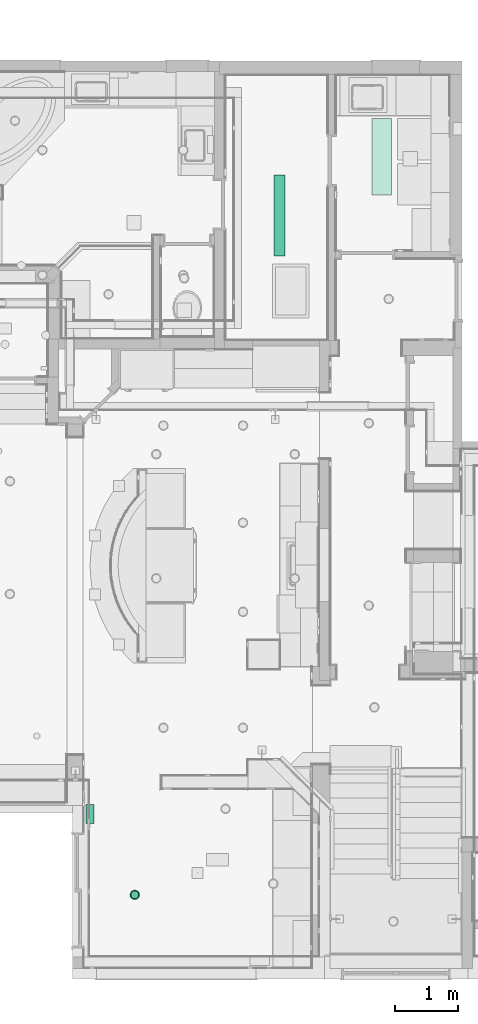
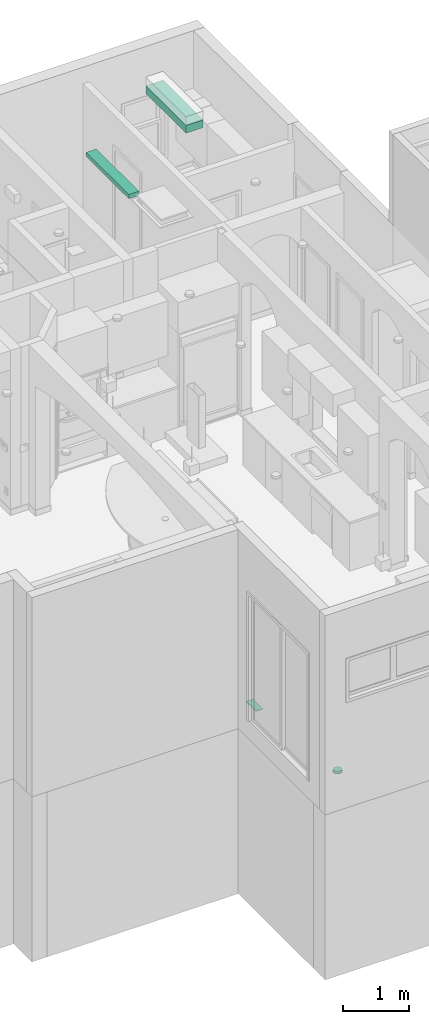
# One storey, part 35 of 60: 4 flow terminals.
"""IFC2X3 building model written with IfcOpenShell, lengths in feet."""

from ifc_helpers import new_model, entity, si_unit, converted_unit, direction, frame, frame_2d, origin, origin_2d_with_axis, place, context, subcontext, project, spatial, polyline, rectangle, outline, extrude, faceted_brep, source, transform, mapped, material, material_list, type_object, type_shapes, element, save


model = new_model("IFC2X3")

# Units and contexts
model_context = context("Model", 3, precision=0.0001, world=origin(), true_north=direction((6.123031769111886e-17, 1.0)))
plan_context = context("Plan", 3, precision=0.0001, world=origin(), true_north=direction((6.123031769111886e-17, 1.0)))
body_context = subcontext(model_context, "Body", "Model", "MODEL_VIEW")
ifc_project = project(units=[converted_unit("LENGTHUNIT", "FOOT", entity("IfcLengthMeasure", 0.3048), si_unit("LENGTHUNIT", "METRE"), dimensions=[1, 0, 0, 0, 0, 0, 0]), converted_unit("AREAUNIT", "SQUARE FOOT", entity("IfcAreaMeasure", 0.09290304), si_unit("AREAUNIT", "SQUARE_METRE"), dimensions=[2, 0, 0, 0, 0, 0, 0]), converted_unit("PLANEANGLEUNIT", "DEGREE", entity("IfcPlaneAngleMeasure", 0.017453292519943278), si_unit("PLANEANGLEUNIT", "RADIAN"), dimensions=[0, 0, 0, 0, 0, 0, 0])], contexts=[model_context, plan_context])

# Site, building, storey
site_placement = place(None, origin())
site = spatial("IfcSite", under=ifc_project, at=site_placement, Name="Default", CompositionType="ELEMENT")
building_placement = place(site_placement, origin())
building = spatial("IfcBuilding", under=site, at=building_placement, CompositionType="ELEMENT")
storey_placement = place(building_placement, origin())
storey = spatial("IfcBuildingStorey", under=building, at=storey_placement, Name="First floor", CompositionType="ELEMENT", Elevation=0.0)

# Flow terminals
ifc_material_1 = material(Name="Default New Material")
ifc_material_2 = material(Name="Glass, White, High Luminance")
ifc_material_list_1 = material_list([ifc_material_1, ifc_material_2])
light_fixture_type_1 = type_object("IfcLightFixtureType", Name="C_Spotlight Recessed:Light 2", PredefinedType="NOTDEFINED", material=ifc_material_list_1)
shared_shape_1 = source(origin(), body_context, "Body", "Brep", [
    faceted_brep([(-0.12499999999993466, 0.21650635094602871, 0.020833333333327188), (-0.17677669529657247, 0.17677669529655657, 0.020833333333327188), (-0.08333333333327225, 0.14433756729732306, 0.020833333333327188), (-0.04313650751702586, 0.1609876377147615, 0.020833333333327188), (-0.0647047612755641, 0.24148145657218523, 0.020833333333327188), (-0.11785113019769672, 0.11785113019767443, 0.020833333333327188), (-0.21650635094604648, 0.12499999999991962, 0.020833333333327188), (-0.1443375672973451, 0.08333333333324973, 0.020833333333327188), (-0.16098763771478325, 0.04313650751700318, 0.020833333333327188), (-0.2414814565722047, 0.06470476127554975, 0.020833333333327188), (-0.166666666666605, 0.0, 0.020833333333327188), (-0.24999999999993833, 0.0, 0.020833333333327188), (-0.16098763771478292, -0.043136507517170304, 0.020833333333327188), (-0.24148145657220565, -0.06470476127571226, 0.020833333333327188), (-0.14433756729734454, -0.08333333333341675, 0.020833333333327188), (-0.2165063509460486, -0.12500000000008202, 0.020833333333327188), (-0.117851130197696, -0.11785113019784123, 0.020833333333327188), (-0.1767766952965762, -0.17677669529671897, 0.020833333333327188), (-0.08333333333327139, -0.14433756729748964, 0.020833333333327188), (-0.12499999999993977, -0.21650635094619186, 0.020833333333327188), (-0.04313650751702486, -0.16098763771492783, 0.020833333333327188), (-0.06470476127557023, -0.24148145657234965, 0.020833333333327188), (0.0, -0.1666666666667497, 0.020833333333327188), (0.0, -0.25000000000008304, 0.020833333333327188), (0.04313650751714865, -0.1609876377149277, 0.020833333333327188), (0.06470476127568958, -0.24148145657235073, 0.020833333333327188), (0.08333333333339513, -0.1443375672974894, 0.020833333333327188), (0.12500000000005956, -0.21650635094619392, 0.020833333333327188), (0.11785113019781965, -0.11785113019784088, 0.020833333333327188), (0.1767766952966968, -0.1767766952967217, 0.020833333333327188), (0.14433756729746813, -0.0833333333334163, 0.020833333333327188), (0.21650635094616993, -0.12500000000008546, 0.020833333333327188), (0.24148145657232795, -0.06470476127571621, 0.020833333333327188), (0.16098763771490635, -0.0431365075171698, 0.020833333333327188), (0.2500000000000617, 0.0, 0.020833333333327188), (0.1666666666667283, 0.0, 0.020833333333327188), (0.24148145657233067, 0.06470476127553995, 0.020833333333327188), (0.16098763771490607, 0.04313650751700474, 0.020833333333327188), (0.21650635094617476, 0.12499999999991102, 0.020833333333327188), (0.14433756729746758, 0.08333333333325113, 0.020833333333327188), (0.17677669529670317, 0.17677669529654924, 0.020833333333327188), (0.1178511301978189, 0.11785113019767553, 0.020833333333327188), (0.1250000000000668, 0.21650635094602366, 0.020833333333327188), (0.08333333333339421, 0.14433756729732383, 0.020833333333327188), (0.06470476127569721, 0.2414814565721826, 0.020833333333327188), (0.04313650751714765, 0.16098763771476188, 0.020833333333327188), (0.0, 0.24999999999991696, 0.020833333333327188), (0.0, 0.1666666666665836, 0.020833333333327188), (-0.12499999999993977, -0.21650635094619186, 0.0), (-0.1767766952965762, -0.17677669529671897, 0.0), (-0.08333333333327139, -0.14433756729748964, 0.0), (-0.04313650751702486, -0.16098763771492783, 0.0), (-0.06470476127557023, -0.24148145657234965, 0.0), (-0.117851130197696, -0.11785113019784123, 0.0), (-0.2165063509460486, -0.12500000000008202, 0.0), (-0.14433756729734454, -0.08333333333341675, 0.0), (-0.16098763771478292, -0.043136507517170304, 0.0), (-0.24148145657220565, -0.06470476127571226, 0.0), (-0.166666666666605, 0.0, 0.0), (-0.24999999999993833, 0.0, 0.0), (-0.16098763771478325, 0.04313650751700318, 0.0), (-0.2414814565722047, 0.06470476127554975, 0.0), (-0.1443375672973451, 0.08333333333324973, 0.0), (-0.21650635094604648, 0.12499999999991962, 0.0), (-0.11785113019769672, 0.11785113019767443, 0.0), (-0.17677669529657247, 0.17677669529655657, 0.0), (-0.08333333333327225, 0.14433756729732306, 0.0), (-0.12499999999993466, 0.21650635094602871, 0.0), (-0.04313650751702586, 0.1609876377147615, 0.0), (-0.0647047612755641, 0.24148145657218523, 0.0), (0.0, 0.1666666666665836, 0.0), (0.0, 0.24999999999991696, 0.0), (0.04313650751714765, 0.16098763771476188, 0.0), (0.06470476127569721, 0.2414814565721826, 0.0), (0.08333333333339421, 0.14433756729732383, 0.0), (0.1250000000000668, 0.21650635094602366, 0.0), (0.1178511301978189, 0.11785113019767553, 0.0), (0.17677669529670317, 0.17677669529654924, 0.0), (0.14433756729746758, 0.08333333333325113, 0.0), (0.21650635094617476, 0.12499999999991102, 0.0), (0.24148145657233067, 0.06470476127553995, 0.0), (0.16098763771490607, 0.04313650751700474, 0.0), (0.2500000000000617, 0.0, 0.0), (0.1666666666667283, 0.0, 0.0), (0.24148145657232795, -0.06470476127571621, 0.0), (0.16098763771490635, -0.0431365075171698, 0.0), (0.21650635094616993, -0.12500000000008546, 0.0), (0.14433756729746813, -0.0833333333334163, 0.0), (0.1767766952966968, -0.1767766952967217, 0.0), (0.11785113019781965, -0.11785113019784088, 0.0), (0.12500000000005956, -0.21650635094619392, 0.0), (0.08333333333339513, -0.1443375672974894, 0.0), (0.06470476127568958, -0.24148145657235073, 0.0), (0.04313650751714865, -0.1609876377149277, 0.0), (0.0, -0.25000000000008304, 0.0), (0.0, -0.1666666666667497, 0.0)], [[[0, 1, 2]], [[0, 2, 3]], [[3, 4, 0]], [[2, 1, 5]], [[6, 5, 1]], [[7, 5, 6]], [[8, 7, 6]], [[8, 6, 9]], [[8, 9, 10]], [[10, 9, 11]], [[12, 10, 11]], [[12, 11, 13]], [[14, 12, 13]], [[14, 13, 15]], [[16, 14, 15]], [[15, 17, 16]], [[17, 18, 16]], [[18, 17, 19]], [[18, 19, 20]], [[21, 20, 19]], [[20, 21, 22]], [[22, 21, 23]], [[23, 24, 22]], [[24, 23, 25]], [[24, 25, 26]], [[27, 26, 25]], [[27, 28, 26]], [[27, 29, 28]], [[30, 28, 29]], [[31, 30, 29]], [[32, 30, 31]], [[33, 30, 32]], [[33, 32, 34]], [[34, 35, 33]], [[36, 35, 34]], [[36, 37, 35]], [[37, 36, 38]], [[39, 37, 38]], [[39, 38, 40]], [[39, 40, 41]], [[40, 42, 41]], [[41, 42, 43]], [[43, 42, 44]], [[44, 45, 43]], [[46, 45, 44]], [[4, 47, 46]], [[45, 46, 47]], [[4, 3, 47]], [[48, 49, 50]], [[48, 50, 51]], [[51, 52, 48]], [[50, 49, 53]], [[54, 53, 49]], [[55, 53, 54]], [[56, 55, 54]], [[56, 54, 57]], [[56, 57, 58]], [[58, 57, 59]], [[60, 58, 59]], [[60, 59, 61]], [[62, 60, 61]], [[62, 61, 63]], [[64, 62, 63]], [[63, 65, 64]], [[65, 66, 64]], [[66, 65, 67]], [[66, 67, 68]], [[69, 68, 67]], [[68, 69, 70]], [[70, 69, 71]], [[71, 72, 70]], [[72, 71, 73]], [[72, 73, 74]], [[75, 74, 73]], [[75, 76, 74]], [[75, 77, 76]], [[78, 76, 77]], [[79, 78, 77]], [[80, 78, 79]], [[81, 78, 80]], [[81, 80, 82]], [[82, 83, 81]], [[84, 83, 82]], [[84, 85, 83]], [[85, 84, 86]], [[87, 85, 86]], [[87, 86, 88]], [[87, 88, 89]], [[88, 90, 89]], [[89, 90, 91]], [[91, 90, 92]], [[92, 93, 91]], [[94, 93, 92]], [[52, 95, 94]], [[93, 94, 95]], [[52, 51, 95]], [[10, 58, 60, 8]], [[8, 60, 62, 7]], [[2, 5, 64, 66]], [[62, 64, 5, 7]], [[3, 2, 66, 68]], [[70, 47, 3, 68]], [[45, 72, 74, 43]], [[43, 74, 76, 41]], [[37, 39, 78, 81]], [[76, 78, 39, 41]], [[35, 37, 81, 83]], [[45, 47, 70, 72]], [[35, 83, 85, 33]], [[33, 85, 87, 30]], [[26, 28, 89, 91]], [[87, 89, 28, 30]], [[24, 26, 91, 93]], [[95, 22, 24, 93]], [[20, 51, 50, 18]], [[18, 50, 53, 16]], [[12, 14, 55, 56]], [[53, 55, 14, 16]], [[10, 12, 56, 58]], [[20, 22, 95, 51]], [[57, 13, 11, 59]], [[54, 15, 13, 57]], [[19, 17, 49, 48]], [[54, 49, 17, 15]], [[21, 19, 48, 52]], [[23, 21, 52, 94]], [[92, 25, 23, 94]], [[90, 27, 25, 92]], [[31, 29, 88, 86]], [[90, 88, 29, 27]], [[32, 31, 86, 84]], [[34, 32, 84, 82]], [[80, 36, 34, 82]], [[79, 38, 36, 80]], [[42, 40, 77, 75]], [[79, 77, 40, 38]], [[44, 42, 75, 73]], [[46, 44, 73, 71]], [[69, 4, 46, 71]], [[67, 0, 4, 69]], [[6, 1, 65, 63]], [[67, 65, 1, 0]], [[9, 6, 63, 61]], [[11, 9, 61, 59]]]),
    faceted_brep([(0.043136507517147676, -0.160987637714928, 0.020833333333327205), (0.08333333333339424, -0.14433756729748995, 0.020833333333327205), (0.11785113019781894, -0.11785113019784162, 0.020833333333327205), (0.14433756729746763, -0.08333333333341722, 0.020833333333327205), (0.16098763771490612, -0.043136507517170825, 0.020833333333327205), (0.16666666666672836, 0.0, 0.020833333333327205), (0.1609876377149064, 0.04313650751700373, 0.020833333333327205), (0.1443375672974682, 0.08333333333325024, 0.020833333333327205), (0.11785113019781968, 0.11785113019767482, 0.020833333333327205), (0.08333333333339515, 0.14433756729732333, 0.020833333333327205), (0.043136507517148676, 0.16098763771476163, 0.020833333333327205), (0.0, 0.16666666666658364, 0.020833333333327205), (-0.04313650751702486, 0.16098763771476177, 0.020833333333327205), (-0.08333333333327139, 0.14433756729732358, 0.020833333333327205), (-0.117851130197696, 0.11785113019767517, 0.020833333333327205), (-0.1443375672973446, 0.08333333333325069, 0.020833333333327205), (-0.16098763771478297, 0.043136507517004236, 0.020833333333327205), (-0.166666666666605, 0.0, 0.020833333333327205), (-0.1609876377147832, -0.04313650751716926, 0.020833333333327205), (-0.14433756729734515, -0.08333333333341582, 0.020833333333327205), (-0.11785113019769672, -0.11785113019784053, 0.020833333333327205), (-0.08333333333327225, -0.14433756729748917, 0.020833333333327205), (-0.04313650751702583, -0.1609876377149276, 0.020833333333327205), (0.0, -0.16666666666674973, 0.020833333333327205), (0.043136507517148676, 0.16098763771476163, 0.0), (0.08333333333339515, 0.14433756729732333, 0.0), (0.11785113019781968, 0.11785113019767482, 0.0), (0.1443375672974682, 0.08333333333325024, 0.0), (0.1609876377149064, 0.04313650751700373, 0.0), (0.16666666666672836, 0.0, 0.0), (0.16098763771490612, -0.043136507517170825, 0.0), (0.14433756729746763, -0.08333333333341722, 0.0), (0.11785113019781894, -0.11785113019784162, 0.0), (0.08333333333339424, -0.14433756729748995, 0.0), (0.043136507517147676, -0.160987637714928, 0.0), (0.0, -0.16666666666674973, 0.0), (-0.04313650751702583, -0.1609876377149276, 0.0), (-0.08333333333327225, -0.14433756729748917, 0.0), (-0.11785113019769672, -0.11785113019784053, 0.0), (-0.14433756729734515, -0.08333333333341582, 0.0), (-0.1609876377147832, -0.04313650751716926, 0.0), (-0.166666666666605, 0.0, 0.0), (-0.16098763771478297, 0.043136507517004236, 0.0), (-0.1443375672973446, 0.08333333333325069, 0.0), (-0.117851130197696, 0.11785113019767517, 0.0), (-0.08333333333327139, 0.14433756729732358, 0.0), (-0.04313650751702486, 0.16098763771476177, 0.0), (0.0, 0.16666666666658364, 0.0)], [[[0, 1, 2, 3, 4, 5, 6, 7, 8, 9, 10, 11, 12, 13, 14, 15, 16, 17, 18, 19, 20, 21, 22, 23]], [[24, 25, 26, 27, 28, 29, 30, 31, 32, 33, 34, 35, 36, 37, 38, 39, 40, 41, 42, 43, 44, 45, 46, 47]], [[40, 18, 17, 41]], [[39, 19, 18, 40]], [[21, 20, 38, 37]], [[39, 38, 20, 19]], [[22, 21, 37, 36]], [[23, 22, 36, 35]], [[34, 0, 23, 35]], [[33, 1, 0, 34]], [[3, 2, 32, 31]], [[33, 32, 2, 1]], [[4, 3, 31, 30]], [[5, 4, 30, 29]], [[28, 6, 5, 29]], [[27, 7, 6, 28]], [[9, 8, 26, 25]], [[27, 26, 8, 7]], [[10, 9, 25, 24]], [[11, 10, 24, 47]], [[46, 12, 11, 47]], [[45, 13, 12, 46]], [[15, 14, 44, 43]], [[45, 44, 14, 13]], [[16, 15, 43, 42]], [[17, 16, 42, 41]]]),
    faceted_brep([(0.0, -0.16666666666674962, -0.10416666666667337), (0.04313650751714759, -0.1609876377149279, -0.10416666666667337), (0.08333333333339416, -0.1443375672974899, -0.10416666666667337), (0.1178511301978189, -0.11785113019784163, -0.10416666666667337), (0.1443375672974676, -0.08333333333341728, -0.10416666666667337), (0.16098763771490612, -0.043136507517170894, -0.10416666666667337), (0.16666666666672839, 0.0, -0.10416666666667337), (0.16098763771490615, 0.04313650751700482, -0.10416666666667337), (0.14433756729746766, 0.08333333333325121, -0.10416666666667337), (0.11785113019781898, 0.11785113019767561, -0.10416666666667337), (0.0833333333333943, 0.14433756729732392, -0.10416666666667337), (0.04313650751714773, 0.16098763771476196, -0.10416666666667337), (0.0, 0.1666666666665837, -0.10416666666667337), (-0.043136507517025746, 0.16098763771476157, -0.10416666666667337), (-0.08333333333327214, 0.14433756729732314, -0.10416666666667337), (-0.11785113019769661, 0.11785113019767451, -0.10416666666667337), (-0.14433756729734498, 0.08333333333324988, -0.10416666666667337), (-0.16098763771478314, 0.04313650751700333, -0.10416666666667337), (-0.16666666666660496, 0.0, -0.10416666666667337), (-0.16098763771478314, -0.04313650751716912, -0.10416666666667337), (-0.1443375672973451, -0.08333333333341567, -0.10416666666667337), (-0.11785113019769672, -0.11785113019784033, -0.10416666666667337), (-0.08333333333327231, -0.14433756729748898, -0.10416666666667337), (-0.04313650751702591, -0.16098763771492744, -0.10416666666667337), (0.0, 0.20833333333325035, -0.12500000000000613), (0.053920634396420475, 0.20123454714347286, -0.12500000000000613), (0.10416666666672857, 0.18042195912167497, -0.12500000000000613), (0.14731391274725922, 0.14731391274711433, -0.12500000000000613), (0.18042195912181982, 0.1041666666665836, -0.12500000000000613), (0.2012345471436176, 0.053920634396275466, -0.12500000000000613), (0.20833333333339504, 0.0, -0.12500000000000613), (0.20123454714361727, -0.0539206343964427, -0.12500000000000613), (0.18042195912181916, -0.10416666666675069, -0.12500000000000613), (0.1473139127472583, -0.14731391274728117, -0.12500000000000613), (0.10416666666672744, -0.18042195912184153, -0.12500000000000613), (0.053920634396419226, -0.2012345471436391, -0.12500000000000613), (0.0, -0.20833333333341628, -0.12500000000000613), (-0.05392063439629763, -0.20123454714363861, -0.12500000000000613), (-0.10416666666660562, -0.18042195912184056, -0.12500000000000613), (-0.14731391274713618, -0.1473139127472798, -0.12500000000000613), (-0.18042195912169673, -0.10416666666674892, -0.12500000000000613), (-0.20123454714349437, -0.05392063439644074, -0.12500000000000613), (-0.2083333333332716, 0.0, -0.12500000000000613), (-0.20123454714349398, 0.053920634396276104, -0.12500000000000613), (-0.18042195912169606, 0.10416666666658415, -0.12500000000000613), (-0.1473139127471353, 0.14731391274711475, -0.12500000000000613), (-0.10416666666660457, 0.1804219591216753, -0.12500000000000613), (-0.05392063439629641, 0.20123454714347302, -0.12500000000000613), (-0.2012345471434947, -0.053920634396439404, -0.10416666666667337), (-0.20123454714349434, -0.053920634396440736, 0.0), (-0.20833333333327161, 0.0, 0.0), (-0.2083333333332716, 0.0, -0.10416666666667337), (-0.1804219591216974, -0.10416666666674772, -0.10416666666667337), (-0.1804219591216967, -0.10416666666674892, 0.0), (-0.10416666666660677, -0.18042195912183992, -0.10416666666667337), (-0.10416666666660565, -0.18042195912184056, 0.0), (-0.1473139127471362, -0.1473139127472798, 0.0), (-0.14731391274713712, -0.14731391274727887, -0.10416666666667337), (-0.053920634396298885, -0.20123454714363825, -0.10416666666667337), (-0.05392063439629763, -0.20123454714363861, 0.0), (0.0, -0.20833333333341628, -0.10416666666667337), (0.0, -0.20833333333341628, 0.0), (0.05392063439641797, -0.20123454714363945, -0.10416666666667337), (0.053920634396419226, -0.2012345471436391, 0.0), (0.10416666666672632, -0.1804219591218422, -0.10416666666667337), (0.10416666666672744, -0.18042195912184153, 0.0), (0.1804219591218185, -0.1041666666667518, -0.10416666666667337), (0.18042195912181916, -0.10416666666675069, 0.0), (0.1473139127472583, -0.14731391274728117, 0.0), (0.1473139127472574, -0.1473139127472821, -0.10416666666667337), (0.20123454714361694, -0.05392063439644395, -0.10416666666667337), (0.20123454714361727, -0.05392063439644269, 0.0), (0.20833333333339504, 0.0, -0.10416666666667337), (0.20833333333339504, 0.0, 0.0), (0.2012345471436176, 0.053920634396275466, -0.10416666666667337), (0.2012345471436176, 0.05392063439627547, 0.0), (0.18042195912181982, 0.1041666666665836, -0.10416666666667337), (0.18042195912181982, 0.1041666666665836, 0.0), (0.10416666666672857, 0.18042195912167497, -0.10416666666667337), (0.10416666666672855, 0.18042195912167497, 0.0), (0.14731391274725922, 0.14731391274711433, 0.0), (0.14731391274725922, 0.14731391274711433, -0.10416666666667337), (0.053920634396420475, 0.20123454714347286, -0.10416666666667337), (0.053920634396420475, 0.20123454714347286, 0.0), (0.0, 0.20833333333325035, -0.10416666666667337), (0.0, 0.20833333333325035, 0.0), (-0.05392063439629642, 0.20123454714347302, -0.10416666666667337), (-0.05392063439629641, 0.20123454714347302, 0.0), (-0.10416666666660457, 0.1804219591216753, -0.10416666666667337), (-0.10416666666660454, 0.1804219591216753, 0.0), (-0.18042195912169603, 0.10416666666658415, -0.10416666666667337), (-0.18042195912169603, 0.10416666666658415, 0.0), (-0.14731391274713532, 0.14731391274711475, 0.0), (-0.14731391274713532, 0.14731391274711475, -0.10416666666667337), (-0.20123454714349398, 0.053920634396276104, -0.10416666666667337), (-0.20123454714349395, 0.05392063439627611, 0.0), (-0.08333333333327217, 0.14433756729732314, 0.0), (-0.043136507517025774, 0.16098763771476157, 0.0), (-0.11785113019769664, 0.11785113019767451, 0.0), (-0.144337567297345, 0.08333333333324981, 0.0), (-0.16098763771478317, 0.04313650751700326, 0.0), (-0.16666666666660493, 0.0, 0.0), (-0.16098763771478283, -0.04313650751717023, 0.0), (-0.14433756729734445, -0.08333333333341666, 0.0), (-0.11785113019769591, -0.11785113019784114, 0.0), (-0.08333333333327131, -0.14433756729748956, 0.0), (-0.043136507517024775, -0.16098763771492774, 0.0), (0.0, -0.16666666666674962, 0.0), (0.04313650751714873, -0.1609876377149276, 0.0), (0.08333333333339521, -0.1443375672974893, 0.0), (0.11785113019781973, -0.1178511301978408, 0.0), (0.14433756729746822, -0.08333333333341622, 0.0), (0.16098763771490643, -0.04313650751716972, 0.0), (0.16666666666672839, 0.0, 0.0), (0.16098763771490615, 0.04313650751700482, 0.0), (0.14433756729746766, 0.08333333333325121, 0.0), (0.11785113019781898, 0.11785113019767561, 0.0), (0.0833333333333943, 0.14433756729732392, 0.0), (0.04313650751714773, 0.16098763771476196, 0.0), (0.0, 0.1666666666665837, 0.0)], [[[0, 1, 2, 3, 4, 5, 6, 7, 8, 9, 10, 11, 12, 13, 14, 15, 16, 17, 18, 19, 20, 21, 22, 23]], [[24, 25, 26, 27, 28, 29, 30, 31, 32, 33, 34, 35, 36, 37, 38, 39, 40, 41, 42, 43, 44, 45, 46, 47]], [[41, 48, 49, 50, 51, 42]], [[40, 52, 53, 49, 48, 41]], [[54, 55, 56, 57, 39, 38]], [[40, 39, 57, 56, 53, 52]], [[58, 59, 55, 54, 38, 37]], [[60, 61, 59, 58, 37, 36]], [[35, 62, 63, 61, 60, 36]], [[34, 64, 65, 63, 62, 35]], [[66, 67, 68, 69, 33, 32]], [[34, 33, 69, 68, 65, 64]], [[70, 71, 67, 66, 32, 31]], [[72, 73, 71, 70, 31, 30]], [[29, 74, 75, 73, 72, 30]], [[28, 76, 77, 75, 74, 29]], [[78, 79, 80, 81, 27, 26]], [[28, 27, 81, 80, 77, 76]], [[82, 83, 79, 78, 26, 25]], [[84, 85, 83, 82, 25, 24]], [[47, 86, 87, 85, 84, 24]], [[46, 88, 89, 87, 86, 47]], [[90, 91, 92, 93, 45, 44]], [[46, 45, 93, 92, 89, 88]], [[94, 95, 91, 90, 44, 43]], [[51, 50, 95, 94, 43, 42]], [[89, 92, 96]], [[89, 96, 97]], [[97, 87, 89]], [[96, 92, 98]], [[91, 98, 92]], [[99, 98, 91]], [[100, 99, 91]], [[100, 91, 95]], [[100, 95, 101]], [[101, 95, 50]], [[102, 101, 50]], [[102, 50, 49]], [[103, 102, 49]], [[103, 49, 53]], [[104, 103, 53]], [[53, 56, 104]], [[56, 105, 104]], [[105, 56, 55]], [[105, 55, 106]], [[59, 106, 55]], [[106, 59, 107]], [[107, 59, 61]], [[61, 108, 107]], [[108, 61, 63]], [[108, 63, 109]], [[65, 109, 63]], [[65, 110, 109]], [[65, 68, 110]], [[111, 110, 68]], [[67, 111, 68]], [[71, 111, 67]], [[112, 111, 71]], [[112, 71, 73]], [[73, 113, 112]], [[75, 113, 73]], [[75, 114, 113]], [[114, 75, 77]], [[115, 114, 77]], [[115, 77, 80]], [[115, 80, 116]], [[80, 79, 116]], [[116, 79, 117]], [[117, 79, 83]], [[83, 118, 117]], [[85, 118, 83]], [[87, 119, 85]], [[85, 119, 118]], [[87, 97, 119]], [[113, 6, 5, 112]], [[112, 5, 4, 111]], [[109, 110, 3, 2]], [[4, 3, 110, 111]], [[108, 109, 2, 1]], [[0, 107, 108, 1]], [[104, 105, 22, 21]], [[23, 22, 105, 106]], [[102, 103, 20, 19]], [[104, 21, 20, 103]], [[102, 19, 18, 101]], [[0, 23, 106, 107]], [[101, 18, 17, 100]], [[100, 17, 16, 99]], [[96, 98, 15, 14]], [[16, 15, 98, 99]], [[97, 96, 14, 13]], [[12, 119, 97, 13]], [[118, 11, 10, 117]], [[117, 10, 9, 116]], [[114, 115, 8, 7]], [[9, 8, 115, 116]], [[113, 114, 7, 6]], [[118, 119, 12, 11]]]),
])
type_shapes(light_fixture_type_1, [shared_shape_1])
flow_terminal_1_placement = place(storey_placement, frame((3.250057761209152, 4.395833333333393, 8.416666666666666), z_axis=(0.0, 0.0, -1.0), x_axis=(0.0, -1.0, 0.0)))
element("IfcFlowTerminal", 1, at=flow_terminal_1_placement, inside=storey, type_object=light_fixture_type_1, material=ifc_material_list_1, Name="C_Spotlight Recessed:Light 2", ObjectType="C_Spotlight Recessed:Light 2", context=body_context, shape_type="MappedRepresentation", body=[
    mapped(shared_shape_1, transform((0.0, 0.0, 0.0), scale=1.0)),
])
air_terminal_type = type_object("IfcAirTerminalType", Name="C_Grill_Surface Based:Standard 2", PredefinedType="NOTDEFINED", material=ifc_material_1)
shared_shape_2 = source(origin(), body_context, "Body", "SweptSolid", [
    extrude(rectangle(XDim=0.4166666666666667, YDim=0.9999999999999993, at=origin_2d_with_axis()), frame((0.0, 0.0, 0.0), z_axis=(0.0, 0.0, 1.0), x_axis=(-1.0, 0.0, 0.0)), (0.0, 0.0, 1.0), 0.020833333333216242),
])
type_shapes(air_terminal_type, [shared_shape_2])
flow_terminal_2_placement = place(storey_placement, frame((0.916666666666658, 8.625000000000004, 10.666666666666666)))
element("IfcFlowTerminal", 2, at=flow_terminal_2_placement, inside=storey, type_object=air_terminal_type, material=ifc_material_1, Name="C_Grill_Surface Based:Standard 2", ObjectType="C_Grill_Surface Based:Standard 2", context=body_context, shape_type="MappedRepresentation", body=[
    mapped(shared_shape_2, transform((0.0, 0.0, 0.0), scale=1.0)),
])
ifc_material_3 = material(Name="Glass")
ifc_material_list_2 = material_list([ifc_material_3, ifc_material_1])
light_fixture_type_2 = type_object("IfcLightFixtureType", Name="C_Ceiling Light Rectangular Recessed:Light 12", PredefinedType="NOTDEFINED", material=ifc_material_list_2)
shared_shape_3 = source(origin(), body_context, "Body", "SweptSolid", [
    extrude(rectangle(XDim=3.8333333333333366, YDim=0.8333333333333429, at=origin_2d_with_axis()), frame((-0.061363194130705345, -0.19509820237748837, -12.666666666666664), z_axis=(0.0, 0.0, 1.0), x_axis=(-1.0, 0.0, 0.0)), (0.0, 0.0, 1.0), 0.020833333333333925),
    extrude(outline(polyline([(-2.0, -0.49999999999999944), (2.0, -0.49999999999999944), (2.0, 0.49999999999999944), (-2.0, 0.49999999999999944), (-2.0, -0.49999999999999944)]), holes=[polyline([(-1.9166666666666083, -0.4166666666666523), (-1.916666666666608, 0.4166666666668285), (1.9166666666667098, 0.4166666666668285), (1.9166666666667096, -0.4166666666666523), (-1.9166666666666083, -0.4166666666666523)])]), frame((-0.06136319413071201, -0.19509820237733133, -12.666666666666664), z_axis=(0.0, 0.0, 1.0), x_axis=(-1.0, 0.0, 0.0)), (0.0, 0.0, 1.0), 0.375),
    extrude(rectangle(XDim=4.0000000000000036, YDim=0.9999999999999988, at=frame_2d((2.220446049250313e-16, 5.551115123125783e-17), x_axis=(1.0, 0.0))), frame((-0.06136319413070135, -0.19509820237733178, -12.291666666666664), z_axis=(0.0, 0.0, 1.0), x_axis=(-1.0, 0.0, 0.0)), (0.0, 0.0, 1.0), 0.08333333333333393),
])
type_shapes(light_fixture_type_2, [shared_shape_3])
flow_terminal_3_placement = place(storey_placement, frame((15.9816596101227, 43.100086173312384, 33.33333333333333), z_axis=(0.0, 0.0, 1.0), x_axis=(0.0, 1.0, 0.0)))
element("IfcFlowTerminal", 3, at=flow_terminal_3_placement, inside=storey, type_object=light_fixture_type_2, material=ifc_material_list_2, Name="C_Ceiling Light Rectangular Recessed:Light 12", ObjectType="C_Ceiling Light Rectangular Recessed:Light 12", context=body_context, shape_type="MappedRepresentation", body=[
    mapped(shared_shape_3, transform((0.0, 0.0, 0.0), scale=1.0)),
])
ifc_material_list_3 = material_list([ifc_material_1, ifc_material_3])
light_fixture_type_3 = type_object("IfcLightFixtureType", Name="C_Ceiling Light Rectangular Flushed:Light 9", PredefinedType="NOTDEFINED", material=ifc_material_list_3)
shared_shape_4 = source(origin(), body_context, "Body", "SweptSolid", [
    extrude(outline(polyline([(-2.1250000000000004, -0.29166666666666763), (2.1250000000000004, -0.29166666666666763), (2.1250000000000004, 0.29166666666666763), (-2.1250000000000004, 0.29166666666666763), (-2.1250000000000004, -0.29166666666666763)]), holes=[polyline([(-2.0833333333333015, -0.2500000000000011), (-2.0833333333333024, 0.25000000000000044), (2.08333333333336, 0.25000000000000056), (2.0833333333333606, -0.250000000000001), (-2.0833333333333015, -0.2500000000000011)])]), frame((0.0, 0.0, -12.916666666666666), z_axis=(0.0, 0.0, 1.0), x_axis=(-1.0, 0.0, 0.0)), (0.0, 0.0, 1.0), 0.2500000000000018),
    extrude(rectangle(XDim=0.5000000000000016, YDim=4.1666666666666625, at=frame_2d((-2.7755575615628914e-17, -2.220446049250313e-16), x_axis=(1.0, 0.0))), frame((0.0, 0.0, -12.708333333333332), z_axis=(0.0, 0.0, 1.0), x_axis=(0.0, 1.0, 0.0)), (0.0, 0.0, 1.0), 0.04166666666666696),
    extrude(rectangle(XDim=4.166666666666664, YDim=0.5000000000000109, at=origin_2d_with_axis()), frame((0.0, 0.0, -12.916666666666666), z_axis=(0.0, 0.0, 1.0), x_axis=(-1.0, 0.0, 0.0)), (0.0, 0.0, 1.0), 0.04166666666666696),
])
type_shapes(light_fixture_type_3, [shared_shape_4])
flow_terminal_4_placement = place(storey_placement, frame((10.833333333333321, 39.95798816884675, 33.33333333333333), z_axis=(0.0, 0.0, 1.0), x_axis=(0.0, 1.0, 0.0)))
element("IfcFlowTerminal", 4, at=flow_terminal_4_placement, inside=storey, type_object=light_fixture_type_3, material=ifc_material_list_3, Name="C_Ceiling Light Rectangular Flushed:Light 9", ObjectType="C_Ceiling Light Rectangular Flushed:Light 9", context=body_context, shape_type="MappedRepresentation", body=[
    mapped(shared_shape_4, transform((0.0, 0.0, 0.0), scale=1.0)),
])

save(model, "model.ifc")
